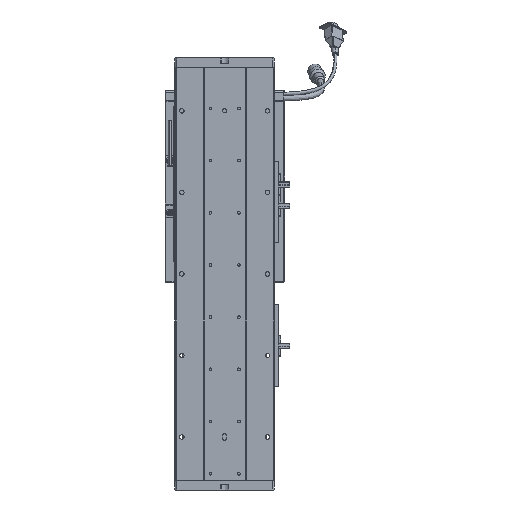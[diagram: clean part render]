
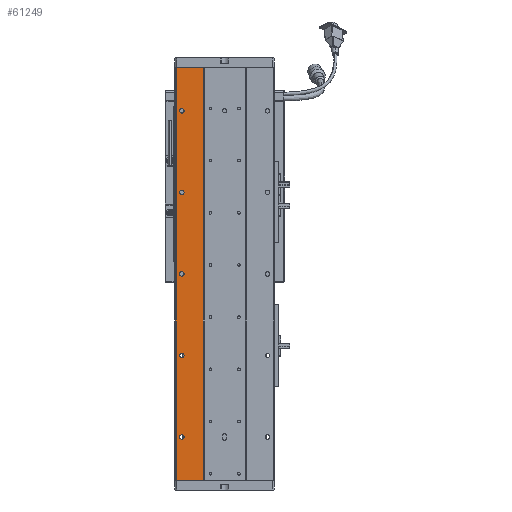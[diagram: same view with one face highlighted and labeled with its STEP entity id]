
A CAD part, front view. The second image highlights one B-rep face of the part: STEP entity #61249.
In plain terms, the highlighted planar face has unit normal (0, -1, 0).
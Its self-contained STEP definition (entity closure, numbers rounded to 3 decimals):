
#1658 = CARTESIAN_POINT ( 'NONE',  ( 128.625, 76.768, 506. ) ) ;
#1989 = VERTEX_POINT ( 'NONE', #46689 ) ;
#2500 = EDGE_CURVE ( 'NONE', #68515, #40986, #13046, .T. ) ;
#2811 = CARTESIAN_POINT ( 'NONE',  ( 102.625, 76.768, 255.75 ) ) ;
#2829 = EDGE_CURVE ( 'NONE', #7041, #14736, #31252, .T. ) ;
#2853 = CARTESIAN_POINT ( 'NONE',  ( 102.625, 76.768, 253. ) ) ;
#4476 = DIRECTION ( 'NONE',  ( 0., 0., 1. ) ) ;
#4606 = CARTESIAN_POINT ( 'NONE',  ( 128.625, 76.768, 0. ) ) ;
#4936 = EDGE_CURVE ( 'NONE', #37431, #17527, #32216, .T. ) ;
#5022 = CARTESIAN_POINT ( 'NONE',  ( 102.625, 76.768, 155.75 ) ) ;
#5234 = VERTEX_POINT ( 'NONE', #42112 ) ;
#5532 = EDGE_CURVE ( 'NONE', #68018, #10218, #65149, .T. ) ;
#6767 = EDGE_LOOP ( 'NONE', ( #29932, #36229 ) ) ;
#6797 = CARTESIAN_POINT ( 'NONE',  ( 102.625, 76.768, 253. ) ) ;
#7041 = VERTEX_POINT ( 'NONE', #1658 ) ;
#7771 = VECTOR ( 'NONE', #11893, 1000. ) ;
#8383 = DIRECTION ( 'NONE',  ( 0., 0., 1. ) ) ;
#8476 = AXIS2_PLACEMENT_3D ( 'NONE', #35428, #24077, #51966 ) ;
#8608 = CARTESIAN_POINT ( 'NONE',  ( 84.971, 76.768, 506. ) ) ;
#9590 = DIRECTION ( 'NONE',  ( 0., 1., 0. ) ) ;
#10194 = FACE_BOUND ( 'NONE', #63154, .T. ) ;
#10218 = VERTEX_POINT ( 'NONE', #37000 ) ;
#10510 = ORIENTED_EDGE ( 'NONE', *, *, #63659, .F. ) ;
#10586 = CARTESIAN_POINT ( 'NONE',  ( 102.625, 76.768, 450.25 ) ) ;
#11012 = CIRCLE ( 'NONE', #8476, 2.75 ) ;
#11893 = DIRECTION ( 'NONE',  ( 0., 0., -1. ) ) ;
#11960 = CARTESIAN_POINT ( 'NONE',  ( 95.718, 76.768, 506. ) ) ;
#12675 = CARTESIAN_POINT ( 'NONE',  ( 102.625, 76.768, 455.75 ) ) ;
#13046 = LINE ( 'NONE', #11960, #13880 ) ;
#13152 = CIRCLE ( 'NONE', #56952, 2.75 ) ;
#13457 = DIRECTION ( 'NONE',  ( -1., 0., 0. ) ) ;
#13579 = DIRECTION ( 'NONE',  ( 0., 1., 0. ) ) ;
#13612 = AXIS2_PLACEMENT_3D ( 'NONE', #52796, #13966, #47434 ) ;
#13880 = VECTOR ( 'NONE', #56850, 1000. ) ;
#13958 = VERTEX_POINT ( 'NONE', #2811 ) ;
#13966 = DIRECTION ( 'NONE',  ( 0., 1., 0. ) ) ;
#14432 = DIRECTION ( 'NONE',  ( 0., 1., 0. ) ) ;
#14494 = ORIENTED_EDGE ( 'NONE', *, *, #52326, .T. ) ;
#14736 = VERTEX_POINT ( 'NONE', #4606 ) ;
#14899 = DIRECTION ( 'NONE',  ( 0., 0., 1. ) ) ;
#15447 = ORIENTED_EDGE ( 'NONE', *, *, #44868, .T. ) ;
#16102 = CARTESIAN_POINT ( 'NONE',  ( 102.625, 76.768, 153. ) ) ;
#16263 = FACE_BOUND ( 'NONE', #62561, .T. ) ;
#16625 = DIRECTION ( 'NONE',  ( 0., 1., 0. ) ) ;
#17177 = CARTESIAN_POINT ( 'NONE',  ( 95.718, 76.768, 506. ) ) ;
#17527 = VERTEX_POINT ( 'NONE', #10586 ) ;
#18440 = ORIENTED_EDGE ( 'NONE', *, *, #25643, .T. ) ;
#19434 = DIRECTION ( 'NONE',  ( 0., 0., 1. ) ) ;
#19584 = CIRCLE ( 'NONE', #45231, 2.75 ) ;
#20116 = DIRECTION ( 'NONE',  ( 0., 1., 0. ) ) ;
#20352 = ORIENTED_EDGE ( 'NONE', *, *, #58942, .T. ) ;
#22055 = AXIS2_PLACEMENT_3D ( 'NONE', #50392, #62085, #61848 ) ;
#22436 = CARTESIAN_POINT ( 'NONE',  ( 102.625, 76.768, 353. ) ) ;
#22568 = CIRCLE ( 'NONE', #22600, 2.75 ) ;
#22586 = CIRCLE ( 'NONE', #54791, 2.75 ) ;
#22600 = AXIS2_PLACEMENT_3D ( 'NONE', #62299, #33864, #56922 ) ;
#22727 = EDGE_LOOP ( 'NONE', ( #10510, #60309, #15447, #24431 ) ) ;
#24077 = DIRECTION ( 'NONE',  ( 0., 1., 0. ) ) ;
#24431 = ORIENTED_EDGE ( 'NONE', *, *, #2500, .F. ) ;
#25643 = EDGE_CURVE ( 'NONE', #5234, #13958, #27517, .T. ) ;
#25940 = AXIS2_PLACEMENT_3D ( 'NONE', #6797, #13579, #19434 ) ;
#27517 = CIRCLE ( 'NONE', #25940, 2.75 ) ;
#28366 = LINE ( 'NONE', #8608, #37028 ) ;
#29224 = AXIS2_PLACEMENT_3D ( 'NONE', #2853, #57446, #8383 ) ;
#29932 = ORIENTED_EDGE ( 'NONE', *, *, #4936, .T. ) ;
#30976 = CARTESIAN_POINT ( 'NONE',  ( 84.971, 76.768, 0. ) ) ;
#31052 = FACE_BOUND ( 'NONE', #6767, .T. ) ;
#31252 = LINE ( 'NONE', #55592, #7771 ) ;
#32216 = CIRCLE ( 'NONE', #13612, 2.75 ) ;
#33864 = DIRECTION ( 'NONE',  ( 0., 1., 0. ) ) ;
#34584 = CARTESIAN_POINT ( 'NONE',  ( 102.625, 76.768, 50.25 ) ) ;
#35428 = CARTESIAN_POINT ( 'NONE',  ( 102.625, 76.768, 53. ) ) ;
#36218 = FACE_BOUND ( 'NONE', #43137, .T. ) ;
#36229 = ORIENTED_EDGE ( 'NONE', *, *, #55825, .T. ) ;
#36582 = CARTESIAN_POINT ( 'NONE',  ( 0., 76.768, 0. ) ) ;
#37000 = CARTESIAN_POINT ( 'NONE',  ( 102.625, 76.768, 355.75 ) ) ;
#37028 = VECTOR ( 'NONE', #13457, 1000. ) ;
#37431 = VERTEX_POINT ( 'NONE', #12675 ) ;
#38928 = DIRECTION ( 'NONE',  ( 0., 0., 1. ) ) ;
#39036 = CARTESIAN_POINT ( 'NONE',  ( 95.718, 76.768, 0. ) ) ;
#40086 = CARTESIAN_POINT ( 'NONE',  ( 102.625, 76.768, 350.25 ) ) ;
#40986 = VERTEX_POINT ( 'NONE', #17177 ) ;
#42112 = CARTESIAN_POINT ( 'NONE',  ( 102.625, 76.768, 250.25 ) ) ;
#42428 = ORIENTED_EDGE ( 'NONE', *, *, #67819, .T. ) ;
#43137 = EDGE_LOOP ( 'NONE', ( #42428, #14494 ) ) ;
#43172 = VERTEX_POINT ( 'NONE', #34584 ) ;
#44324 = DIRECTION ( 'NONE',  ( 0., 0., 1. ) ) ;
#44868 = EDGE_CURVE ( 'NONE', #7041, #40986, #28366, .T. ) ;
#45148 = EDGE_CURVE ( 'NONE', #43172, #58435, #11012, .T. ) ;
#45231 = AXIS2_PLACEMENT_3D ( 'NONE', #65789, #20116, #44324 ) ;
#46689 = CARTESIAN_POINT ( 'NONE',  ( 102.625, 76.768, 150.25 ) ) ;
#47434 = DIRECTION ( 'NONE',  ( 0., 0., 1. ) ) ;
#49010 = ORIENTED_EDGE ( 'NONE', *, *, #45148, .T. ) ;
#50392 = CARTESIAN_POINT ( 'NONE',  ( 102.625, 76.768, 353. ) ) ;
#51966 = DIRECTION ( 'NONE',  ( 0., 0., 1. ) ) ;
#52326 = EDGE_CURVE ( 'NONE', #1989, #55681, #22586, .T. ) ;
#52796 = CARTESIAN_POINT ( 'NONE',  ( 102.625, 76.768, 453. ) ) ;
#53948 = DIRECTION ( 'NONE',  ( 0., 1., 0. ) ) ;
#54791 = AXIS2_PLACEMENT_3D ( 'NONE', #63795, #14432, #14899 ) ;
#55592 = CARTESIAN_POINT ( 'NONE',  ( 128.625, 76.768, 506. ) ) ;
#55681 = VERTEX_POINT ( 'NONE', #5022 ) ;
#55825 = EDGE_CURVE ( 'NONE', #17527, #37431, #19584, .T. ) ;
#55899 = LINE ( 'NONE', #36582, #60340 ) ;
#56184 = EDGE_LOOP ( 'NONE', ( #20352, #49010 ) ) ;
#56194 = AXIS2_PLACEMENT_3D ( 'NONE', #30976, #9590, #59618 ) ;
#56850 = DIRECTION ( 'NONE',  ( 0., 0., 1. ) ) ;
#56922 = DIRECTION ( 'NONE',  ( 0., 0., 1. ) ) ;
#56952 = AXIS2_PLACEMENT_3D ( 'NONE', #16102, #53948, #4476 ) ;
#57446 = DIRECTION ( 'NONE',  ( 0., 1., 0. ) ) ;
#57543 = CIRCLE ( 'NONE', #22055, 2.75 ) ;
#58298 = AXIS2_PLACEMENT_3D ( 'NONE', #22436, #16625, #38928 ) ;
#58435 = VERTEX_POINT ( 'NONE', #69439 ) ;
#58942 = EDGE_CURVE ( 'NONE', #58435, #43172, #22568, .T. ) ;
#59618 = DIRECTION ( 'NONE',  ( 0., 0., 1. ) ) ;
#60309 = ORIENTED_EDGE ( 'NONE', *, *, #2829, .F. ) ;
#60340 = VECTOR ( 'NONE', #69464, 1000. ) ;
#61249 = ADVANCED_FACE ( 'NONE', ( #31052, #16263, #67587, #36218, #10194, #64134 ), #70108, .F. ) ;
#61848 = DIRECTION ( 'NONE',  ( 0., 0., 1. ) ) ;
#62085 = DIRECTION ( 'NONE',  ( 0., 1., 0. ) ) ;
#62299 = CARTESIAN_POINT ( 'NONE',  ( 102.625, 76.768, 53. ) ) ;
#62561 = EDGE_LOOP ( 'NONE', ( #69802, #64586 ) ) ;
#63154 = EDGE_LOOP ( 'NONE', ( #69697, #18440 ) ) ;
#63659 = EDGE_CURVE ( 'NONE', #14736, #68515, #55899, .T. ) ;
#63795 = CARTESIAN_POINT ( 'NONE',  ( 102.625, 76.768, 153. ) ) ;
#64134 = FACE_OUTER_BOUND ( 'NONE', #22727, .T. ) ;
#64586 = ORIENTED_EDGE ( 'NONE', *, *, #5532, .T. ) ;
#65149 = CIRCLE ( 'NONE', #58298, 2.75 ) ;
#65789 = CARTESIAN_POINT ( 'NONE',  ( 102.625, 76.768, 453. ) ) ;
#67365 = EDGE_CURVE ( 'NONE', #10218, #68018, #57543, .T. ) ;
#67587 = FACE_BOUND ( 'NONE', #56184, .T. ) ;
#67819 = EDGE_CURVE ( 'NONE', #55681, #1989, #13152, .T. ) ;
#68018 = VERTEX_POINT ( 'NONE', #40086 ) ;
#68515 = VERTEX_POINT ( 'NONE', #39036 ) ;
#69439 = CARTESIAN_POINT ( 'NONE',  ( 102.625, 76.768, 55.75 ) ) ;
#69464 = DIRECTION ( 'NONE',  ( -1., 0., 0. ) ) ;
#69697 = ORIENTED_EDGE ( 'NONE', *, *, #70466, .T. ) ;
#69802 = ORIENTED_EDGE ( 'NONE', *, *, #67365, .T. ) ;
#70108 = PLANE ( 'NONE',  #56194 ) ;
#70466 = EDGE_CURVE ( 'NONE', #13958, #5234, #71254, .T. ) ;
#71254 = CIRCLE ( 'NONE', #29224, 2.75 ) ;
